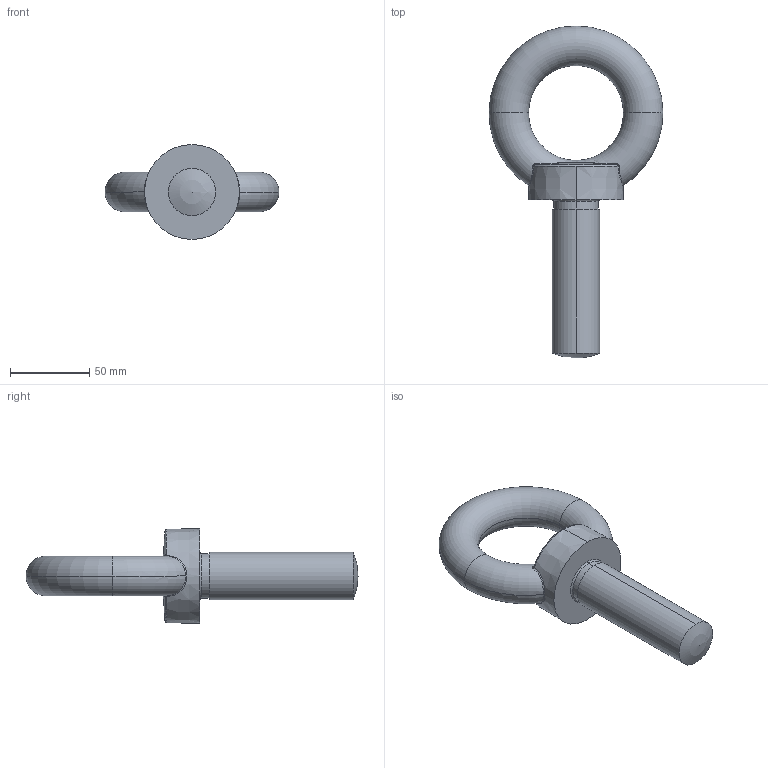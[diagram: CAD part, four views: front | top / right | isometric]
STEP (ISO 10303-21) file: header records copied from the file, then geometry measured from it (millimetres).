
FILE_DESCRIPTION (( 'STEP AP203' ), '1' );
FILE_NAME ('EB-901(S)-30100.STEP', '2013-07-03T09:58:29', ( 'SDS' ), ( 'SDS' ), 'SwSTEP 2.0', 'SolidWorks 2002296', '' );
FILE_SCHEMA (( 'CONFIG_CONTROL_DESIGN' ));
Length unit declared in the file: millimetre
Products named in the file (1): EB-901(S)-30100
Bounding box: 110 x 210 x 60 mm (x, y, z)
Volume: 238914.8 mm3; surface area: 34949.9 mm2
Topology: 1 solids, 1 shells, 31 faces, 72 edges, 42 vertices
Faces by surface type: torus 11, bspline 8, cone 5, cylinder 4, plane 2, sphere 1
Entity records: 8788 total; most frequent: CARTESIAN_POINT 8048, DIRECTION 141, ORIENTED_EDGE 138, EDGE_CURVE 69, AXIS2_PLACEMENT_3D 67, CIRCLE 43, VERTEX_POINT 40, EDGE_LOOP 33
